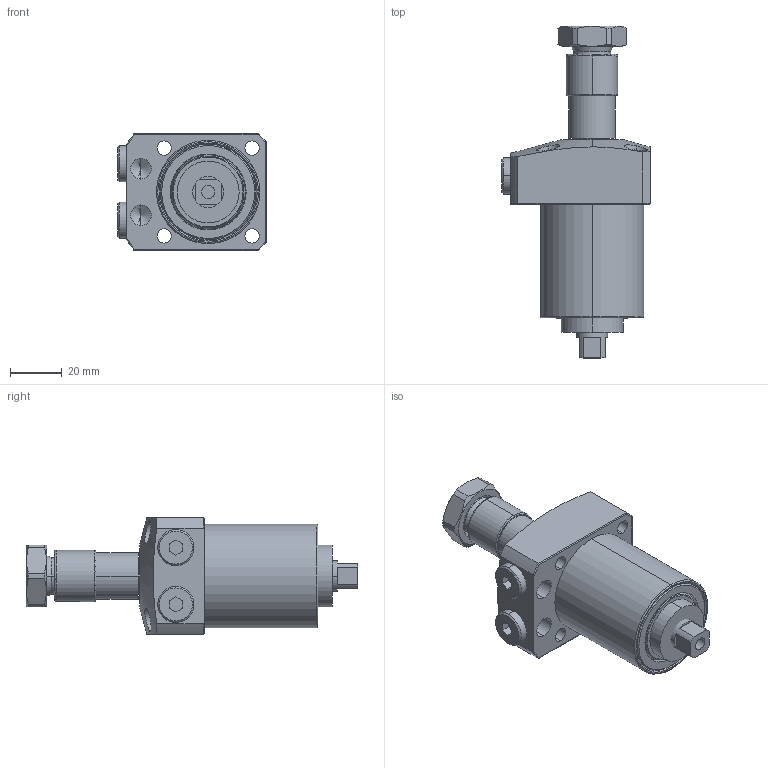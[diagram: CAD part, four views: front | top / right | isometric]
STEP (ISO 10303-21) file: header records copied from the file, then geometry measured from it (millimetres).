
FILE_DESCRIPTION (( 'STEP AP203' ), '1' );
FILE_NAME ('20300-CL-D.STEP', '2019-06-24T02:56:01', ( '微软用户' ), ( '微软中国' ), 'SwSTEP 2.0', 'SolidWorks 2014', '' );
FILE_SCHEMA (( 'CONFIG_CONTROL_DESIGN' ));
Length unit declared in the file: millimetre
Products named in the file (7): 1^20300-CL-D; 6^20300-CL-D; 2^20300-CL-D; 20300-CL-D; 3^20300-CL-D; 4^20300-CL-D; 5^20300-CL-D
Assembly tree (7 placements, depth 2):
  20300-CL-D
    1^20300-CL-D
    2^20300-CL-D
    3^20300-CL-D
    4^20300-CL-D
    5^20300-CL-D
    6^20300-CL-D  x2
Bounding box: 57.5 x 128.5 x 45 mm (x, y, z)
Volume: 131317.5 mm3; surface area: 29860.4 mm2
Topology: 7 solids, 9 shells, 223 faces, 526 edges, 331 vertices
Faces by surface type: plane 88, cylinder 74, cone 41, torus 18, sphere 2
Entity records: 7411 total; most frequent: CARTESIAN_POINT 1799, DIRECTION 1054, ORIENTED_EDGE 984, EDGE_CURVE 492, AXIS2_PLACEMENT_3D 426, VERTEX_POINT 313, EDGE_LOOP 235, FACE_OUTER_BOUND 210
